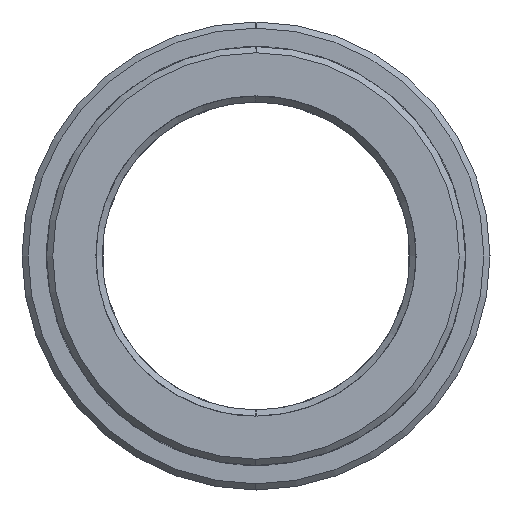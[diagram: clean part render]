
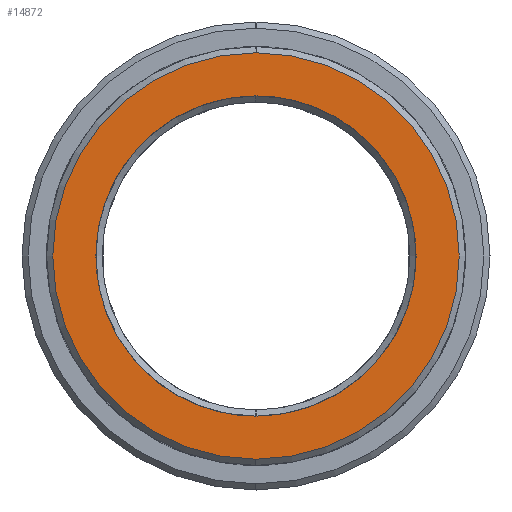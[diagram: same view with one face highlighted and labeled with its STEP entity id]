
A CAD part, left-side view. The second image highlights one B-rep face of the part: STEP entity #14872.
In plain terms, the highlighted planar face has unit normal (1, 0, 0).
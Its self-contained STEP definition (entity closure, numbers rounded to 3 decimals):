
#14789=CARTESIAN_POINT('Axis2P3D Location',(-16.,0.,0.)) ;
#14794=CARTESIAN_POINT('Axis2P3D Location',(-16.,0.,0.)) ;
#14798=CARTESIAN_POINT('Vertex',(-16.,0.,16.5)) ;
#14800=CARTESIAN_POINT('Vertex',(-16.,0.,-16.5)) ;
#14803=CARTESIAN_POINT('Axis2P3D Location',(-16.,0.,0.)) ;
#14813=CARTESIAN_POINT('Control Point',(-16.,0.,13.)) ;
#14814=CARTESIAN_POINT('Control Point',(-16.,1.236,13.)) ;
#14815=CARTESIAN_POINT('Control Point',(-16.,2.473,12.853)) ;
#14816=CARTESIAN_POINT('Control Point',(-16.,3.686,12.559)) ;
#14817=CARTESIAN_POINT('Control Point',(-16.,6.019,11.688)) ;
#14818=CARTESIAN_POINT('Control Point',(-16.,8.083,10.295)) ;
#14819=CARTESIAN_POINT('Control Point',(-16.,9.027,9.478)) ;
#14820=CARTESIAN_POINT('Control Point',(-16.,10.702,7.635)) ;
#14821=CARTESIAN_POINT('Control Point',(-16.,11.899,5.452)) ;
#14822=CARTESIAN_POINT('Control Point',(-16.,12.365,4.293)) ;
#14823=CARTESIAN_POINT('Control Point',(-16.,13.011,1.888)) ;
#14824=CARTESIAN_POINT('Control Point',(-16.,13.075,-0.601)) ;
#14825=CARTESIAN_POINT('Control Point',(-16.,12.958,-1.844)) ;
#14826=CARTESIAN_POINT('Control Point',(-16.,12.432,-4.278)) ;
#14827=CARTESIAN_POINT('Control Point',(-16.,11.349,-6.521)) ;
#14828=CARTESIAN_POINT('Control Point',(-16.,10.676,-7.572)) ;
#14829=CARTESIAN_POINT('Control Point',(-16.,9.093,-9.495)) ;
#14830=CARTESIAN_POINT('Control Point',(-16.,7.104,-10.993)) ;
#14831=CARTESIAN_POINT('Control Point',(-16.,6.025,-11.62)) ;
#14832=CARTESIAN_POINT('Control Point',(-16.,4.188,-12.411)) ;
#14833=CARTESIAN_POINT('Control Point',(-16.,2.243,-12.838)) ;
#14834=CARTESIAN_POINT('Control Point',(-16.,1.499,-12.946)) ;
#14835=CARTESIAN_POINT('Control Point',(-16.,0.749,-13.)) ;
#14836=CARTESIAN_POINT('Control Point',(-16.,0.,-13.)) ;
#14837=CARTESIAN_POINT('Vertex',(-16.,0.,13.)) ;
#14839=CARTESIAN_POINT('Vertex',(-16.,0.,-13.)) ;
#14843=CARTESIAN_POINT('Control Point',(-16.,0.,-13.)) ;
#14844=CARTESIAN_POINT('Control Point',(-16.,-1.236,-13.)) ;
#14845=CARTESIAN_POINT('Control Point',(-16.,-2.473,-12.853)) ;
#14846=CARTESIAN_POINT('Control Point',(-16.,-3.686,-12.559)) ;
#14847=CARTESIAN_POINT('Control Point',(-16.,-6.019,-11.688)) ;
#14848=CARTESIAN_POINT('Control Point',(-16.,-8.083,-10.295)) ;
#14849=CARTESIAN_POINT('Control Point',(-16.,-9.027,-9.478)) ;
#14850=CARTESIAN_POINT('Control Point',(-16.,-10.702,-7.635)) ;
#14851=CARTESIAN_POINT('Control Point',(-16.,-11.899,-5.452)) ;
#14852=CARTESIAN_POINT('Control Point',(-16.,-12.365,-4.293)) ;
#14853=CARTESIAN_POINT('Control Point',(-16.,-13.011,-1.888)) ;
#14854=CARTESIAN_POINT('Control Point',(-16.,-13.075,0.601)) ;
#14855=CARTESIAN_POINT('Control Point',(-16.,-12.958,1.844)) ;
#14856=CARTESIAN_POINT('Control Point',(-16.,-12.432,4.278)) ;
#14857=CARTESIAN_POINT('Control Point',(-16.,-11.349,6.521)) ;
#14858=CARTESIAN_POINT('Control Point',(-16.,-10.676,7.572)) ;
#14859=CARTESIAN_POINT('Control Point',(-16.,-9.093,9.495)) ;
#14860=CARTESIAN_POINT('Control Point',(-16.,-7.104,10.993)) ;
#14861=CARTESIAN_POINT('Control Point',(-16.,-6.025,11.62)) ;
#14862=CARTESIAN_POINT('Control Point',(-16.,-4.188,12.411)) ;
#14863=CARTESIAN_POINT('Control Point',(-16.,-2.243,12.838)) ;
#14864=CARTESIAN_POINT('Control Point',(-16.,-1.499,12.946)) ;
#14865=CARTESIAN_POINT('Control Point',(-16.,-0.749,13.)) ;
#14866=CARTESIAN_POINT('Control Point',(-16.,0.,13.)) ;
#14790=DIRECTION('Axis2P3D Direction',(1.,0.,0.)) ;
#14791=DIRECTION('Axis2P3D XDirection',(0.,1.,0.)) ;
#14795=DIRECTION('Axis2P3D Direction',(1.,0.,0.)) ;
#14804=DIRECTION('Axis2P3D Direction',(1.,0.,0.)) ;
#14792=AXIS2_PLACEMENT_3D('Plane Axis2P3D',#14789,#14790,#14791) ;
#14796=AXIS2_PLACEMENT_3D('Circle Axis2P3D',#14794,#14795,$) ;
#14805=AXIS2_PLACEMENT_3D('Circle Axis2P3D',#14803,#14804,$) ;
#14809=ORIENTED_EDGE('',*,*,#14802,.T.) ;
#14810=ORIENTED_EDGE('',*,*,#14807,.T.) ;
#14869=ORIENTED_EDGE('',*,*,#14841,.T.) ;
#14870=ORIENTED_EDGE('',*,*,#14867,.T.) ;
#14871=FACE_BOUND('',#14868,.T.) ;
#14872=ADVANCED_FACE('MANIFOLD_SOLID_BREP #9169',(#14811,#14871),#14793,.T.) ;
#14812=B_SPLINE_CURVE_WITH_KNOTS('',5,(#14813,#14814,#14815,#14816,#14817,#14818,#14819,#14820,#14821,#14822,#14823,#14824,#14825,#14826,#14827,#14828,#14829,#14830,#14831,#14832,#14833,#14834,#14835,#14836),.UNSPECIFIED.,.F.,.U.,(6,3,3,3,3,3,3,6),(0.,8.743,17.486,26.229,34.972,43.715,52.457,57.757),.UNSPECIFIED.) ;
#14842=B_SPLINE_CURVE_WITH_KNOTS('',5,(#14843,#14844,#14845,#14846,#14847,#14848,#14849,#14850,#14851,#14852,#14853,#14854,#14855,#14856,#14857,#14858,#14859,#14860,#14861,#14862,#14863,#14864,#14865,#14866),.UNSPECIFIED.,.F.,.U.,(6,3,3,3,3,3,3,6),(0.,8.743,17.486,26.229,34.972,43.715,52.457,57.757),.UNSPECIFIED.) ;
#14797=CIRCLE('generated circle',#14796,16.5) ;
#14806=CIRCLE('generated circle',#14805,16.5) ;
#14802=EDGE_CURVE('',#14799,#14801,#14797,.T.) ;
#14807=EDGE_CURVE('',#14801,#14799,#14806,.T.) ;
#14841=EDGE_CURVE('',#14838,#14840,#14812,.T.) ;
#14867=EDGE_CURVE('',#14840,#14838,#14842,.T.) ;
#14808=EDGE_LOOP('',(#14809,#14810)) ;
#14868=EDGE_LOOP('',(#14869,#14870)) ;
#14811=FACE_OUTER_BOUND('',#14808,.T.) ;
#14793=PLANE('Plane',#14792) ;
#14799=VERTEX_POINT('',#14798) ;
#14801=VERTEX_POINT('',#14800) ;
#14838=VERTEX_POINT('',#14837) ;
#14840=VERTEX_POINT('',#14839) ;
